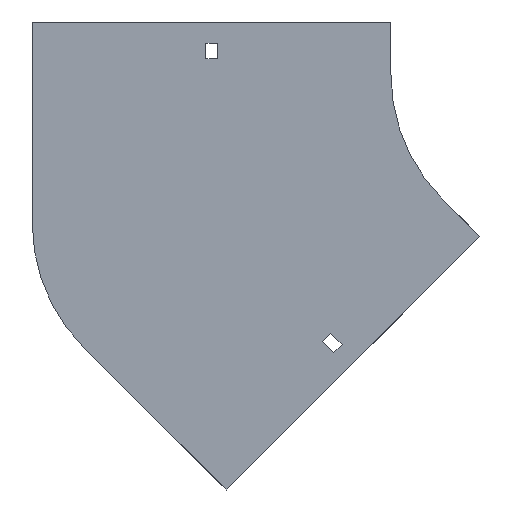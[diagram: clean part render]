
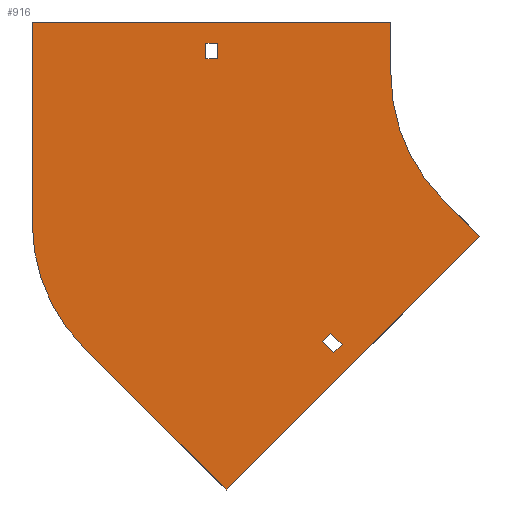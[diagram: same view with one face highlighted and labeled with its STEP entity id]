
A CAD part, front view. The second image highlights one B-rep face of the part: STEP entity #916.
In plain terms, the highlighted planar face has unit normal (0, -1, 0).
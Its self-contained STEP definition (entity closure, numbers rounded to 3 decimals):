
#32 = AXIS2_PLACEMENT_3D ( 'NONE', #1026, #1918, #693 ) ;
#46 = ORIENTED_EDGE ( 'NONE', *, *, #632, .F. ) ;
#57 = EDGE_CURVE ( 'NONE', #929, #961, #89, .T. ) ;
#61 = ORIENTED_EDGE ( 'NONE', *, *, #137, .F. ) ;
#66 = CIRCLE ( 'NONE', #1387, 100. ) ;
#87 = VERTEX_POINT ( 'NONE', #809 ) ;
#89 = LINE ( 'NONE', #367, #1697 ) ;
#120 = VERTEX_POINT ( 'NONE', #1404 ) ;
#137 = EDGE_CURVE ( 'NONE', #141, #295, #438, .T. ) ;
#141 = VERTEX_POINT ( 'NONE', #683 ) ;
#157 = DIRECTION ( 'NONE',  ( 1., 0., 0. ) ) ;
#172 = CARTESIAN_POINT ( 'NONE',  ( -49.497, 0., -91.924 ) ) ;
#184 = EDGE_CURVE ( 'NONE', #1375, #1215, #1636, .T. ) ;
#192 = DIRECTION ( 'NONE',  ( -0.707, 0., 0.707 ) ) ;
#226 = VECTOR ( 'NONE', #1732, 1000. ) ;
#279 = DIRECTION ( 'NONE',  ( 0., 0., 1. ) ) ;
#295 = VERTEX_POINT ( 'NONE', #1673 ) ;
#302 = CARTESIAN_POINT ( 'NONE',  ( -205.25, 0., 18. ) ) ;
#305 = VERTEX_POINT ( 'NONE', #1086 ) ;
#311 = VECTOR ( 'NONE', #914, 1000. ) ;
#313 = VERTEX_POINT ( 'NONE', #1692 ) ;
#316 = LINE ( 'NONE', #325, #311 ) ;
#325 = CARTESIAN_POINT ( 'NONE',  ( -193.747, 0., -236.174 ) ) ;
#353 = LINE ( 'NONE', #1921, #1227 ) ;
#367 = CARTESIAN_POINT ( 'NONE',  ( -205.25, 0., 9. ) ) ;
#374 = DIRECTION ( 'NONE',  ( -1., 0., 0. ) ) ;
#394 = FACE_BOUND ( 'NONE', #1660, .T. ) ;
#410 = VECTOR ( 'NONE', #1864, 1000. ) ;
#418 = EDGE_CURVE ( 'NONE', #858, #1344, #1591, .T. ) ;
#425 = EDGE_CURVE ( 'NONE', #1215, #929, #960, .T. ) ;
#438 = CIRCLE ( 'NONE', #623, 100. ) ;
#442 = VECTOR ( 'NONE', #1777, 1000. ) ;
#473 = LINE ( 'NONE', #1072, #1389 ) ;
#491 = CARTESIAN_POINT ( 'NONE',  ( -198.75, 0., 9. ) ) ;
#492 = ORIENTED_EDGE ( 'NONE', *, *, #184, .T. ) ;
#494 = CARTESIAN_POINT ( 'NONE',  ( -70.711, 0., -70.711 ) ) ;
#506 = DIRECTION ( 'NONE',  ( 0., 0., 1. ) ) ;
#513 = CARTESIAN_POINT ( 'NONE',  ( -205.25, 0., 9. ) ) ;
#523 = CARTESIAN_POINT ( 'NONE',  ( -138.77, 0., -151.498 ) ) ;
#525 = CARTESIAN_POINT ( 'NONE',  ( -70.711, 0., -70.711 ) ) ;
#526 = CARTESIAN_POINT ( 'NONE',  ( -132.406, 0., -157.862 ) ) ;
#553 = ORIENTED_EDGE ( 'NONE', *, *, #1085, .F. ) ;
#601 = CARTESIAN_POINT ( 'NONE',  ( -304., 0., 30. ) ) ;
#612 = ORIENTED_EDGE ( 'NONE', *, *, #1579, .F. ) ;
#614 = DIRECTION ( 'NONE',  ( 0., -1., 0. ) ) ;
#622 = CARTESIAN_POINT ( 'NONE',  ( 0., 0., 0. ) ) ;
#623 = AXIS2_PLACEMENT_3D ( 'NONE', #1856, #1571, #506 ) ;
#632 = EDGE_CURVE ( 'NONE', #305, #813, #66, .T. ) ;
#650 = CARTESIAN_POINT ( 'NONE',  ( -132.406, 0., -157.862 ) ) ;
#670 = LINE ( 'NONE', #525, #789 ) ;
#678 = ORIENTED_EDGE ( 'NONE', *, *, #1635, .F. ) ;
#683 = CARTESIAN_POINT ( 'NONE',  ( -274.711, 0., -155.21 ) ) ;
#693 = DIRECTION ( 'NONE',  ( 0., 0., -1. ) ) ;
#696 = VECTOR ( 'NONE', #1797, 1000. ) ;
#702 = VERTEX_POINT ( 'NONE', #172 ) ;
#735 = ORIENTED_EDGE ( 'NONE', *, *, #1459, .F. ) ;
#775 = EDGE_CURVE ( 'NONE', #87, #141, #316, .T. ) ;
#789 = VECTOR ( 'NONE', #1123, 1000. ) ;
#809 = CARTESIAN_POINT ( 'NONE',  ( -193.747, 0., -236.174 ) ) ;
#811 = CARTESIAN_POINT ( 'NONE',  ( -134.174, 0., -146.901 ) ) ;
#813 = VERTEX_POINT ( 'NONE', #494 ) ;
#856 = VERTEX_POINT ( 'NONE', #650 ) ;
#858 = VERTEX_POINT ( 'NONE', #1713 ) ;
#914 = DIRECTION ( 'NONE',  ( -0.707, 0., 0.707 ) ) ;
#916 = ADVANCED_FACE ( 'NONE', ( #1142, #1748, #394 ), #994, .T. ) ;
#923 = ORIENTED_EDGE ( 'NONE', *, *, #57, .T. ) ;
#929 = VERTEX_POINT ( 'NONE', #1640 ) ;
#935 = VECTOR ( 'NONE', #1051, 1000. ) ;
#958 = ORIENTED_EDGE ( 'NONE', *, *, #1145, .F. ) ;
#960 = LINE ( 'NONE', #513, #1637 ) ;
#961 = VERTEX_POINT ( 'NONE', #1779 ) ;
#994 = PLANE ( 'NONE',  #32 ) ;
#1012 = VECTOR ( 'NONE', #279, 1000. ) ;
#1026 = CARTESIAN_POINT ( 'NONE',  ( 0., 0., 0. ) ) ;
#1029 = LINE ( 'NONE', #1633, #1012 ) ;
#1051 = DIRECTION ( 'NONE',  ( 0., 0., -1. ) ) ;
#1056 = ORIENTED_EDGE ( 'NONE', *, *, #1128, .T. ) ;
#1072 = CARTESIAN_POINT ( 'NONE',  ( -138.77, 0., -151.498 ) ) ;
#1085 = EDGE_CURVE ( 'NONE', #120, #1255, #1230, .T. ) ;
#1086 = CARTESIAN_POINT ( 'NONE',  ( -100., 0., 0. ) ) ;
#1094 = DIRECTION ( 'NONE',  ( 0., 0., -1. ) ) ;
#1110 = CARTESIAN_POINT ( 'NONE',  ( -100., 0., 30. ) ) ;
#1119 = EDGE_LOOP ( 'NONE', ( #553, #1757, #61, #1208, #735, #678, #46, #612 ) ) ;
#1123 = DIRECTION ( 'NONE',  ( 0.707, 0., -0.707 ) ) ;
#1128 = EDGE_CURVE ( 'NONE', #961, #1375, #1657, .T. ) ;
#1142 = FACE_BOUND ( 'NONE', #1912, .T. ) ;
#1145 = EDGE_CURVE ( 'NONE', #1344, #856, #473, .T. ) ;
#1208 = ORIENTED_EDGE ( 'NONE', *, *, #775, .F. ) ;
#1215 = VERTEX_POINT ( 'NONE', #491 ) ;
#1227 = VECTOR ( 'NONE', #1262, 1000. ) ;
#1230 = LINE ( 'NONE', #601, #696 ) ;
#1243 = EDGE_CURVE ( 'NONE', #856, #313, #1879, .T. ) ;
#1255 = VERTEX_POINT ( 'NONE', #1110 ) ;
#1262 = DIRECTION ( 'NONE',  ( 0., 0., -1. ) ) ;
#1279 = DIRECTION ( 'NONE',  ( 0., 0., 1. ) ) ;
#1302 = VECTOR ( 'NONE', #192, 1000. ) ;
#1318 = LINE ( 'NONE', #1645, #442 ) ;
#1331 = ORIENTED_EDGE ( 'NONE', *, *, #1243, .F. ) ;
#1344 = VERTEX_POINT ( 'NONE', #523 ) ;
#1359 = VECTOR ( 'NONE', #157, 1000. ) ;
#1375 = VERTEX_POINT ( 'NONE', #1448 ) ;
#1387 = AXIS2_PLACEMENT_3D ( 'NONE', #622, #614, #1094 ) ;
#1389 = VECTOR ( 'NONE', #1675, 1000. ) ;
#1404 = CARTESIAN_POINT ( 'NONE',  ( -304., 0., 30. ) ) ;
#1448 = CARTESIAN_POINT ( 'NONE',  ( -198.75, 0., 18. ) ) ;
#1459 = EDGE_CURVE ( 'NONE', #702, #87, #1318, .T. ) ;
#1476 = EDGE_CURVE ( 'NONE', #295, #120, #1029, .T. ) ;
#1541 = LINE ( 'NONE', #811, #1302 ) ;
#1571 = DIRECTION ( 'NONE',  ( 0., 1., 0. ) ) ;
#1579 = EDGE_CURVE ( 'NONE', #1255, #305, #353, .T. ) ;
#1591 = LINE ( 'NONE', #1608, #410 ) ;
#1608 = CARTESIAN_POINT ( 'NONE',  ( -138.77, 0., -151.498 ) ) ;
#1633 = CARTESIAN_POINT ( 'NONE',  ( -304., 0., -84.5 ) ) ;
#1635 = EDGE_CURVE ( 'NONE', #813, #702, #670, .T. ) ;
#1636 = LINE ( 'NONE', #1949, #935 ) ;
#1637 = VECTOR ( 'NONE', #374, 1000. ) ;
#1640 = CARTESIAN_POINT ( 'NONE',  ( -205.25, 0., 9. ) ) ;
#1645 = CARTESIAN_POINT ( 'NONE',  ( -49.497, 0., -91.924 ) ) ;
#1657 = LINE ( 'NONE', #302, #1359 ) ;
#1660 = EDGE_LOOP ( 'NONE', ( #1331, #958, #1696, #1843 ) ) ;
#1673 = CARTESIAN_POINT ( 'NONE',  ( -304., 0., -84.5 ) ) ;
#1675 = DIRECTION ( 'NONE',  ( 0.707, 0., -0.707 ) ) ;
#1692 = CARTESIAN_POINT ( 'NONE',  ( -127.81, 0., -153.265 ) ) ;
#1696 = ORIENTED_EDGE ( 'NONE', *, *, #418, .F. ) ;
#1697 = VECTOR ( 'NONE', #1279, 1000. ) ;
#1713 = CARTESIAN_POINT ( 'NONE',  ( -134.174, 0., -146.901 ) ) ;
#1732 = DIRECTION ( 'NONE',  ( 0.707, 0., 0.707 ) ) ;
#1748 = FACE_OUTER_BOUND ( 'NONE', #1119, .T. ) ;
#1757 = ORIENTED_EDGE ( 'NONE', *, *, #1476, .F. ) ;
#1777 = DIRECTION ( 'NONE',  ( -0.707, 0., -0.707 ) ) ;
#1779 = CARTESIAN_POINT ( 'NONE',  ( -205.25, 0., 18. ) ) ;
#1797 = DIRECTION ( 'NONE',  ( 1., 0., 0. ) ) ;
#1843 = ORIENTED_EDGE ( 'NONE', *, *, #1909, .F. ) ;
#1856 = CARTESIAN_POINT ( 'NONE',  ( -204., 0., -84.5 ) ) ;
#1864 = DIRECTION ( 'NONE',  ( -0.707, 0., -0.707 ) ) ;
#1879 = LINE ( 'NONE', #526, #226 ) ;
#1887 = ORIENTED_EDGE ( 'NONE', *, *, #425, .T. ) ;
#1909 = EDGE_CURVE ( 'NONE', #313, #858, #1541, .T. ) ;
#1912 = EDGE_LOOP ( 'NONE', ( #923, #1056, #492, #1887 ) ) ;
#1918 = DIRECTION ( 'NONE',  ( 0., -1., 0. ) ) ;
#1921 = CARTESIAN_POINT ( 'NONE',  ( -100., 0., 30. ) ) ;
#1949 = CARTESIAN_POINT ( 'NONE',  ( -198.75, 0., 9. ) ) ;
